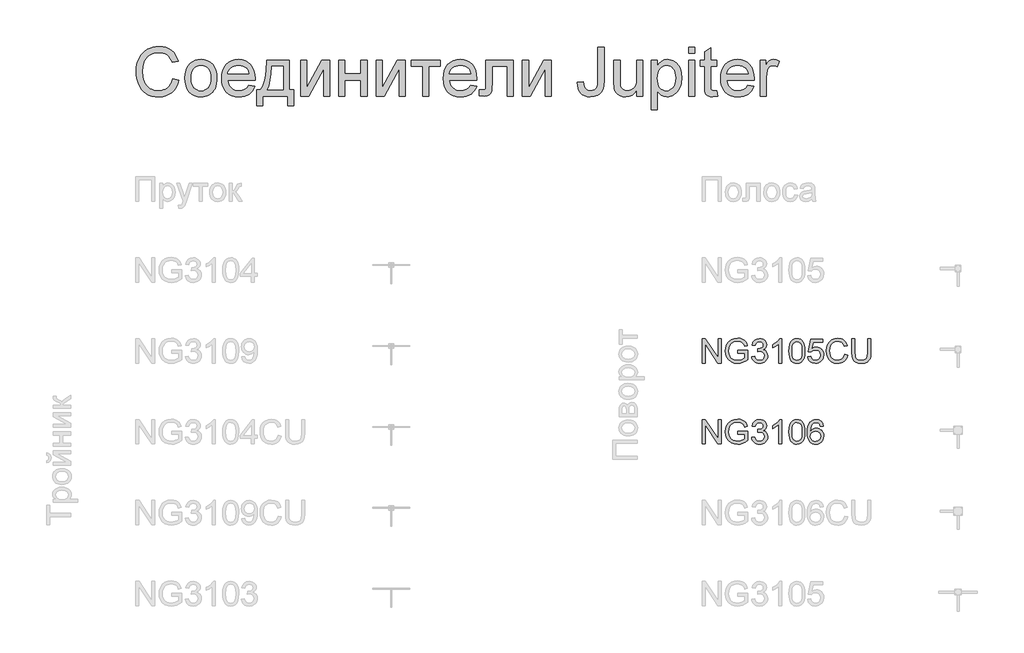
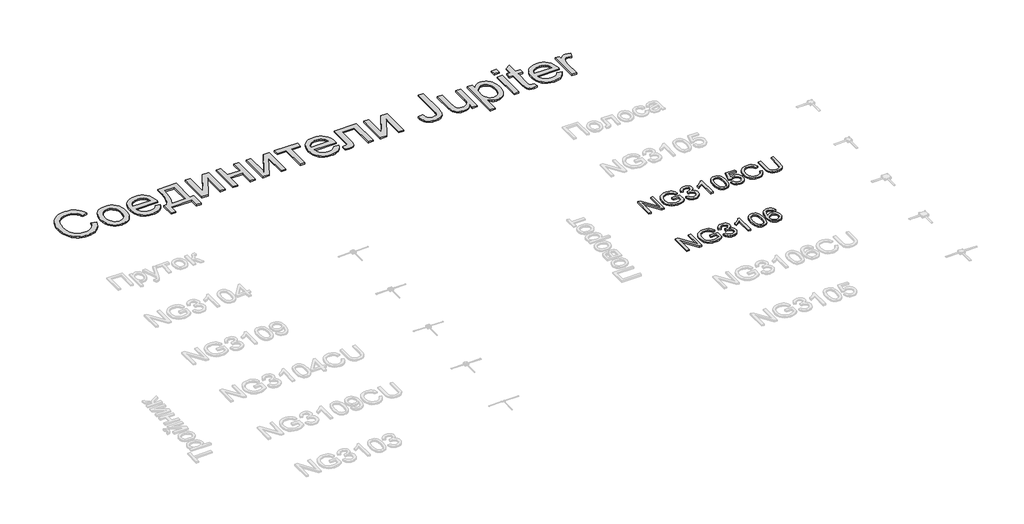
# One storey, part 123 of 124: 3 proxies.
"""IFC4 building model written with IfcOpenShell, lengths in millimetres."""

from ifc_helpers import new_model, si_unit, origin, origin_with_axes, place, context, project, spatial, polyline, outline, extrude, element, save

model = new_model("IFC4")

# Units and contexts
model_context = context("Model", 3, world=origin())
ifc_project = project(units=[si_unit("LENGTHUNIT", "METRE", prefix="MILLI")], contexts=[model_context])

# Site, building, storey
site = spatial("IfcSite", under=ifc_project)
building = spatial("IfcBuilding", under=site)
storey = spatial("IfcBuildingStorey", under=building, Name="Этаж 01", Elevation=0.0)

# Proxies
placement = place(None, origin())
element("IfcBuildingElementProxy", 1, Name="600 мм Arial", ObjectType="600 мм Arial", at=placement, inside=storey, context=model_context, shape_type="SweptSolid", body=[
    extrude(outline(polyline([(50156.5843529, -3005.2596293), (50231.9265855, -3024.6837986), (50217.0181677, -3071.5381692), (50197.161737, -3112.4788368), (50172.3572934, -3147.5058012), (50142.6048371, -3176.6190626), (50108.5757525, -3199.5059212), (50070.9414244, -3215.8536774), (50029.7018528, -3225.6623311), (49984.8570376, -3228.9318823), (49938.9131749, -3226.4578759), (49897.4666696, -3219.0358567), (49860.5175217, -3206.6658246), (49828.0657312, -3189.3477797), (49799.6652412, -3167.3392393), (49774.8699947, -3140.8977209), (49753.6799918, -3110.0232244), (49736.0952324, -3074.71575), (49722.285862, -3036.5020077), (49712.422026, -2996.908708), (49706.5037244, -2955.9358508), (49704.5309572, -2913.5834361), (49706.7612418, -2868.1408126), (49713.4520956, -2825.6964274), (49724.6035186, -2786.2502805), (49740.2155108, -2749.8023718), (49759.9385842, -2716.9551082), (49783.4232511, -2688.3108963), (49810.6695114, -2663.8697363), (49841.677365, -2643.631628), (49875.3937499, -2627.7621184), (49910.7656037, -2616.4267545), (49947.7929265, -2609.6255361), (49986.4757183, -2607.3584633), (50029.5684955, -2610.2923222), (50069.0836204, -2619.0938989), (50105.0210928, -2633.7631935), (50137.3809128, -2654.3002059), (50165.6296515, -2680.1623101), (50189.23388, -2710.8068803), (50208.1935983, -2746.2339165), (50222.5088064, -2786.4434185), (50147.1665738, -2804.3960599), (50135.3023795, -2774.7677637), (50121.0469522, -2749.4528839), (50104.4002919, -2728.4514205), (50085.3623986, -2711.7633735), (50063.8229078, -2699.0484521), (50039.6714548, -2689.9663653), (50012.9080397, -2684.5171132), (49983.5326624, -2682.7006959), (49949.7335041, -2684.7148498), (49918.8222194, -2690.7573116), (49890.7988084, -2700.8280812), (49865.6632711, -2714.9271587), (49843.7329057, -2732.4199475), (49825.3250103, -2752.6718514), (49810.4395851, -2775.6828702), (49799.07663, -2801.4530039), (49784.6740499, -2856.598515), (49779.8731898, -2913.4362833), (49785.5569667, -2983.0395568), (49792.6616877, -3014.3095264), (49802.6082971, -3043.2250512), (49815.5577434, -3069.2113156), (49831.6709748, -3091.693504), (49850.9479913, -3110.6716165), (49873.388793, -3126.1456529), (49897.9035295, -3138.1524015), (49923.4023503, -3146.7286505), (49949.8852554, -3151.8743999), (49977.3522449, -3153.5896497), (50010.107538, -3151.2535991), (50040.2416719, -3144.245447), (50067.7546466, -3132.5651937), (50092.6464621, -3116.212839), (50114.3285072, -3095.2619594), (50132.2121707, -3069.7861312), (50146.2974526, -3039.7853545), (50156.5843529, -3005.2596293)])), origin_with_axes(), (0.0, 0.0, 1.0), 20.0),
    extrude(outline(polyline([(50307.2688181, -2998.196295), (50311.3431112, -2940.8710831), (50323.5659905, -2891.4737282), (50343.937456, -2850.0042303), (50372.4575077, -2816.4625893), (50401.1706974, -2795.0242661), (50432.8637313, -2779.711178), (50467.5366093, -2770.5233252), (50505.1893315, -2767.4607076), (50546.7553985, -2771.1901113), (50584.3391428, -2782.3783225), (50617.9405645, -2801.0253411), (50647.5596637, -2827.1311672), (50671.7341093, -2859.812884), (50689.0015704, -2898.1875746), (50699.3620471, -2942.2552391), (50702.8155393, -2992.0158774), (50701.2888291, -3032.3449412), (50696.7086982, -3068.1306622), (50689.0751468, -3099.3730407), (50678.3881749, -3126.0720765), (50664.7811396, -3149.1336791), (50648.3873982, -3169.4637578), (50629.2069506, -3187.0623128), (50607.239797, -3201.9293439), (50583.3412629, -3213.7429545), (50558.3666739, -3222.1812477), (50532.3160302, -3227.2442237), (50505.1893315, -3228.9318823), (50463.0162593, -3225.2162742), (50425.0830271, -3214.0694497), (50391.3896349, -3195.491409), (50361.9360826, -3169.4821519), (50338.0191544, -3136.4831369), (50320.9356343, -3096.9358225), (50310.6855222, -3050.8402085), (50307.2688181, -2998.196295)]), holes=[polyline([(50382.6110507, -2998.0491422), (50384.7907516, -3034.5936199), (50391.329854, -3066.23607), (50402.2283581, -3092.9764925), (50417.4862639, -3114.8148874), (50436.0459105, -3131.7788459), (50456.8496374, -3143.8959592), (50479.8974444, -3151.1662271), (50505.1893315, -3153.5896497), (50530.35246, -3151.1524315), (50553.3082965, -3143.8407769), (50574.056841, -3131.6546858), (50592.5980936, -3114.5941582), (50607.8559993, -3092.5396326), (50618.7545034, -3065.3715473), (50625.2936059, -3033.0899022), (50627.4733067, -2995.6946974), (50625.2798103, -2960.309048), (50618.6993211, -2929.4943324), (50607.7318392, -2903.2505505), (50592.3773644, -2881.5777025), (50573.767134, -2864.613744), (50553.032385, -2852.4966308), (50530.1731175, -2845.2263628), (50505.1893315, -2842.8029402), (50479.8974444, -2845.2171658), (50456.8496374, -2852.4598426), (50436.0459105, -2864.5309705), (50417.4862639, -2881.4305497), (50402.2283581, -2903.2045653), (50391.329854, -2929.8990026), (50384.7907516, -2961.5138615), (50382.6110507, -2998.0491422)])]), origin_with_axes(), (0.0, 0.0, 1.0), 20.0),
    extrude(outline(polyline([(51097.4793438, -3087.6651962), (51171.3500484, -3097.0829753), (51160.0238815, -3126.6698847), (51144.733786, -3152.7435211), (51125.4797621, -3175.3038845), (51102.2618097, -3194.3509748), (51075.3190521, -3209.4801218), (51044.8906126, -3220.2866555), (51010.9764911, -3226.7705756), (50973.5766878, -3228.9318823), (50926.8280833, -3225.2024786), (50885.1746444, -3214.0142674), (50848.6163711, -3195.3672488), (50817.1532634, -3169.2614227), (50791.8521792, -3136.4233561), (50773.7799762, -3097.579616), (50762.9366544, -3052.7302022), (50759.3222138, -3001.8751149), (50762.9734426, -2949.2955808), (50773.927129, -2902.9516464), (50792.183273, -2862.8433119), (50817.7418746, -2828.9705772), (50849.1222088, -2802.0600092), (50884.8435506, -2782.838175), (50924.9058998, -2771.3050744), (50969.3092566, -2767.4607076), (51012.2824722, -2771.2958774), (51051.1446065, -2782.8013868), (51085.8956594, -2801.9772358), (51116.5356311, -2828.8234244), (51141.5470083, -2862.6225827), (51159.4122777, -2902.6573408), (51170.1314393, -2948.9276988), (51173.7044932, -3001.4336565), (51173.2630348, -3021.7407427), (50834.6644464, -3021.7407427), (50839.0284466, -3051.8058987), (50847.7058631, -3078.1370525), (50860.6966961, -3100.7342041), (50878.0009454, -3119.5973534), (50898.662118, -3134.468983), (50921.7237206, -3145.0915756), (50947.1857532, -3151.4651312), (50975.0482158, -3153.5896497), (51015.1473532, -3149.6533124), (51048.9189204, -3137.8443003), (51076.3629172, -3117.4268496), (51097.4793438, -3087.6651962)]), holes=[polyline([(50834.6644464, -2946.39851), (51098.3622606, -2946.39851), (51088.1719293, -2906.5936782), (51079.4071408, -2890.9402993), (51068.195937, -2878.1196117), (51047.6497275, -2862.6685679), (51024.2708267, -2851.6321081), (50998.0592346, -2845.0102322), (50969.0149511, -2842.8029402), (50942.5228489, -2844.5641753), (50918.2288416, -2849.8478804), (50896.1329293, -2858.6540557), (50876.2351119, -2870.982701), (50859.5378678, -2886.2635994), (50847.0436756, -2903.9265337), (50838.7525351, -2923.9715039), (50834.6644464, -2946.39851)])]), origin_with_axes(), (0.0, 0.0, 1.0), 20.0),
    extrude(outline(polyline([(51314.9711793, -2776.8784867), (51597.5045516, -2776.8784867), (51597.5045516, -3144.1718706), (51654.0112261, -3144.1718706), (51654.0112261, -3341.9452313), (51578.6689935, -3341.9452313), (51578.6689935, -3219.5141033), (51267.8822839, -3219.5141033), (51267.8822839, -3341.9452313), (51192.5400513, -3341.9452313), (51192.5400513, -3144.1718706), (51239.6289467, -3144.1718706), (51258.027645, -3115.7391909), (51273.8603664, -3082.3125132), (51287.1271108, -3043.8918373), (51297.8278783, -3000.4771633), (51305.962669, -2952.0684913), (51311.5314827, -2898.6658212), (51314.9711793, -2776.8784867)]), holes=[polyline([(51380.8956329, -2852.2207193), (51374.7152153, -2944.4671296), (51363.2372971, -3023.8744582), (51346.4618781, -3090.4427053), (51324.3889584, -3144.1718706), (51522.162319, -3144.1718706), (51522.162319, -2852.2207193), (51380.8956329, -2852.2207193)])]), origin_with_axes(), (0.0, 0.0, 1.0), 20.0),
    extrude(outline(polyline([(51738.7712378, -2776.8784867), (51814.1134704, -2776.8784867), (51814.1134704, -3114.4470054), (51999.2316903, -2776.8784867), (52096.6468427, -2776.8784867), (52096.6468427, -3219.5141033), (52021.3046101, -3219.5141033), (52021.3046101, -2884.0057237), (51837.3636125, -3219.5141033), (51738.7712378, -3219.5141033), (51738.7712378, -2776.8784867)])), origin_with_axes(), (0.0, 0.0, 1.0), 20.0),
    extrude(outline(polyline([(52209.6601916, -2776.8784867), (52285.0024242, -2776.8784867), (52285.0024242, -2946.39851), (52482.7757848, -2946.39851), (52482.7757848, -2776.8784867), (52558.1180174, -2776.8784867), (52558.1180174, -3219.5141033), (52482.7757848, -3219.5141033), (52482.7757848, -3021.7407427), (52285.0024242, -3021.7407427), (52285.0024242, -3219.5141033), (52209.6601916, -3219.5141033), (52209.6601916, -2776.8784867)])), origin_with_axes(), (0.0, 0.0, 1.0), 20.0),
    extrude(outline(polyline([(52671.1313663, -2776.8784867), (52746.4735989, -2776.8784867), (52746.4735989, -3114.4470054), (52931.5918189, -2776.8784867), (53029.0069712, -2776.8784867), (53029.0069712, -3219.5141033), (52953.6647386, -3219.5141033), (52953.6647386, -2884.0057237), (52769.723741, -3219.5141033), (52671.1313663, -3219.5141033), (52671.1313663, -2776.8784867)])), origin_with_axes(), (0.0, 0.0, 1.0), 20.0),
    extrude(outline(polyline([(53104.3492039, -2776.8784867), (53462.2248088, -2776.8784867), (53462.2248088, -2852.2207193), (53320.9581226, -2852.2207193), (53320.9581226, -3219.5141033), (53245.61589, -3219.5141033), (53245.61589, -2852.2207193), (53104.3492039, -2852.2207193), (53104.3492039, -2776.8784867)])), origin_with_axes(), (0.0, 0.0, 1.0), 20.0),
    extrude(outline(polyline([(53838.053055, -3087.6651962), (53911.9237597, -3097.0829753), (53900.5975927, -3126.6698847), (53885.3074973, -3152.7435211), (53866.0534734, -3175.3038845), (53842.835521, -3194.3509748), (53815.8927634, -3209.4801218), (53785.4643238, -3220.2866555), (53751.5502024, -3226.7705756), (53714.1503991, -3228.9318823), (53667.4017945, -3225.2024786), (53625.7483556, -3214.0142674), (53589.1900824, -3195.3672488), (53557.7269747, -3169.2614227), (53532.4258905, -3136.4233561), (53514.3536875, -3097.579616), (53503.5103657, -3052.7302022), (53499.8959251, -3001.8751149), (53503.5471539, -2949.2955808), (53514.5008403, -2902.9516464), (53532.7569843, -2862.8433119), (53558.3155859, -2828.9705772), (53589.6959201, -2802.0600092), (53625.4172618, -2782.838175), (53665.4796111, -2771.3050744), (53709.8829679, -2767.4607076), (53752.8561835, -2771.2958774), (53791.7183177, -2782.8013868), (53826.4693707, -2801.9772358), (53857.1093424, -2828.8234244), (53882.1207195, -2862.6225827), (53899.9859889, -2902.6573408), (53910.7051506, -2948.9276988), (53914.2782044, -3001.4336565), (53913.836746, -3021.7407427), (53575.2381577, -3021.7407427), (53579.6021579, -3051.8058987), (53588.2795744, -3078.1370525), (53601.2704074, -3100.7342041), (53618.5746567, -3119.5973534), (53639.2358293, -3134.468983), (53662.2974318, -3145.0915756), (53687.7594644, -3151.4651312), (53715.621927, -3153.5896497), (53755.7210645, -3149.6533124), (53789.4926317, -3137.8443003), (53816.9366285, -3117.4268496), (53838.053055, -3087.6651962)]), holes=[polyline([(53575.2381577, -2946.39851), (53838.9359718, -2946.39851), (53828.7456406, -2906.5936782), (53819.980852, -2890.9402993), (53808.7696482, -2878.1196117), (53788.2234388, -2862.6685679), (53764.844538, -2851.6321081), (53738.6329458, -2845.0102322), (53709.5886623, -2842.8029402), (53683.0965601, -2844.5641753), (53658.8025529, -2849.8478804), (53636.7066406, -2858.6540557), (53616.8088231, -2870.982701), (53600.1115791, -2886.2635994), (53587.6173868, -2903.9265337), (53579.3262464, -2923.9715039), (53575.2381577, -2946.39851)])]), origin_with_axes(), (0.0, 0.0, 1.0), 20.0),
    extrude(outline(polyline([(54027.2915534, -2776.8784867), (54366.3316001, -2776.8784867), (54366.3316001, -3219.0726449), (54290.9893675, -3219.0726449), (54290.9893675, -2852.2207193), (54102.633786, -2852.2207193), (54102.633786, -3063.3849845), (54101.3645931, -3124.6741249), (54097.5570144, -3160.8001368), (54088.0472649, -3182.8546624), (54069.6715592, -3201.9293439), (54041.786104, -3215.1179134), (54003.7471057, -3219.5141033), (53942.5315417, -3215.6881305), (53942.5315417, -3144.1718706), (53976.2295324, -3144.1718706), (53996.6653773, -3143.0130424), (54010.2954052, -3139.5365575), (54018.8118734, -3133.540081), (54023.907039, -3124.8212777), (54027.2915534, -3059.1175534), (54027.2915534, -2776.8784867)])), origin_with_axes(), (0.0, 0.0, 1.0), 20.0),
    extrude(outline(polyline([(54479.344949, -2776.8784867), (54554.6871816, -2776.8784867), (54554.6871816, -3114.4470054), (54739.8054016, -2776.8784867), (54837.2205539, -2776.8784867), (54837.2205539, -3219.5141033), (54761.8783213, -3219.5141033), (54761.8783213, -2884.0057237), (54577.9373237, -3219.5141033), (54479.344949, -3219.5141033), (54479.344949, -2776.8784867)])), origin_with_axes(), (0.0, 0.0, 1.0), 20.0),
    extrude(outline(polyline([(55157.4250425, -3050.2883855), (55232.7672752, -3040.5763008), (55235.4252226, -3070.5310923), (55240.6031617, -3095.3539299), (55248.3010924, -3115.0448137), (55258.5190148, -3129.6037436), (55271.1005791, -3140.0975776), (55285.8894353, -3147.5931732), (55302.8855834, -3152.0905306), (55322.0890236, -3153.5896497), (55349.9192965, -3150.1867413), (55373.6660793, -3139.9780159), (55391.9866027, -3123.9015727), (55403.5380973, -3102.8955108), (55409.6633325, -3072.4900639), (55411.7050776, -3028.2154658), (55411.7050776, -2616.7762424), (55487.0473102, -2616.7762424), (55487.0473102, -3026.8910906), (55482.5039676, -3093.9743724), (55476.8247893, -3121.101071), (55468.8739397, -3143.9511415), (55458.4536821, -3163.4350916), (55445.3662802, -3180.4634295), (55429.6117337, -3195.036155), (55411.1900428, -3207.1532682), (55368.2766081, -3223.4872288), (55318.5573564, -3228.9318823), (55281.4288661, -3226.1221836), (55248.9172947, -3217.6930874), (55221.0226425, -3203.6445937), (55197.7449092, -3183.9767025), (55179.4979623, -3158.7629903), (55166.6956688, -3128.0770334), (55159.3380289, -3091.9188318), (55157.4250425, -3050.2883855)])), origin_with_axes(), (0.0, 0.0, 1.0), 20.0),
    extrude(outline(polyline([(55892.0118105, -3219.5141033), (55892.0118105, -3143.4361067), (55864.7517547, -3180.8405085), (55833.0035385, -3207.5579384), (55796.767162, -3223.5883964), (55756.0426251, -3228.9318823), (55719.3463961, -3225.179486), (55685.1885528, -3213.9222969), (55656.5305454, -3196.9997252), (55636.3338239, -3176.2511806), (55622.7405841, -3151.051264), (55613.8930222, -3120.7745758), (55609.4784382, -3050.7298439), (55609.4784382, -2776.8784867), (55684.8206708, -2776.8784867), (55684.8206708, -3015.2660195), (55685.961105, -3062.9435261), (55689.3824076, -3092.0797801), (55700.3636851, -3117.7027611), (55719.1808492, -3137.1821127), (55744.5831009, -3149.4877655), (55775.3196416, -3153.5896497), (55807.8220159, -3149.395795), (55838.2274628, -3136.8142307), (55863.2986208, -3117.0037853), (55879.7981283, -3091.1232869), (55888.9583899, -3055.6778567), (55892.0118105, -3007.1726156), (55892.0118105, -2776.8784867), (55967.3540431, -2776.8784867), (55967.3540431, -3219.5141033), (55892.0118105, -3219.5141033)])), origin_with_axes(), (0.0, 0.0, 1.0), 20.0),
    extrude(outline(polyline([(56070.949613, -3389.0341266), (56070.949613, -2776.8784867), (56146.2918456, -2776.8784867), (56146.2918456, -2850.7491913), (56170.8663629, -2814.3104797), (56198.3839361, -2788.2828285), (56230.4632461, -2772.6662378), (56268.7229736, -2767.4607076), (56294.9989451, -2769.2817235), (56319.6746299, -2774.7447711), (56342.7500281, -2783.8498505), (56364.2251395, -2796.5969616), (56383.6309148, -2812.6550107), (56400.4983042, -2831.6929039), (56414.827308, -2853.7106414), (56426.6179259, -2878.7082229), (56442.4000635, -2934.221616), (56447.660776, -2994.8117806), (56441.7194818, -3059.2463121), (56434.292864, -3088.9113964), (56423.8955991, -3116.8750266), (56410.6702414, -3142.4060371), (56394.7593451, -3164.7732624), (56376.1629103, -3183.9767025), (56354.8809368, -3200.0163575), (56331.95729, -3212.6668996), (56308.4358349, -3221.7030011), (56284.3165716, -3227.124662), (56259.5995001, -3228.9318823), (56224.9634102, -3224.0942341), (56194.0429285, -3209.5812894), (56167.573819, -3187.6739166), (56146.2918456, -3160.652984), (56146.2918456, -3389.0341266), (56070.949613, -3389.0341266)]), holes=[polyline([(56146.2918456, -3001.7279621), (56148.3289921, -3038.037915), (56154.4404318, -3069.2710964), (56164.6261645, -3095.4275063), (56178.8861903, -3116.5071446), (56196.0524839, -3132.7307406), (56214.95702, -3144.3190234), (56235.5997984, -3151.2719932), (56257.9808193, -3153.5896497), (56280.6837369, -3151.1892197), (56301.7035944, -3143.9879297), (56321.0403918, -3131.9857796), (56338.6941291, -3115.1827694), (56353.4048103, -3093.339776), (56363.9124398, -3066.2176759), (56370.2170175, -3033.8164691), (56372.3185434, -2996.1361558), (56370.2676013, -2960.1389026), (56364.1147749, -2928.9609035), (56353.8600643, -2902.6021585), (56339.5034694, -2881.0626677), (56322.2957891, -2864.3240369), (56303.4878221, -2852.3678721), (56283.0795684, -2845.1941732), (56261.0710281, -2842.8029402), (56239.1314656, -2845.3459245), (56218.4886871, -2852.9748774), (56199.1426927, -2865.6897988), (56181.0934823, -2883.4906889), (56165.8677662, -2906.1384242), (56154.9922548, -2933.3938815), (56148.4669479, -2965.2570608), (56146.2918456, -3001.7279621)])]), origin_with_axes(), (0.0, 0.0, 1.0), 20.0),
    extrude(outline(polyline([(56532.4207877, -2692.118475), (56532.4207877, -2616.7762424), (56607.7630203, -2616.7762424), (56607.7630203, -2692.118475), (56532.4207877, -2692.118475)])), origin_with_axes(), (0.0, 0.0, 1.0), 20.0),
    extrude(outline(polyline([(56532.4207877, -3219.5141033), (56532.4207877, -2776.8784867), (56607.7630203, -2776.8784867), (56607.7630203, -3219.5141033), (56532.4207877, -3219.5141033)])), origin_with_axes(), (0.0, 0.0, 1.0), 20.0),
    extrude(outline(polyline([(56880.8786135, -3156.6798585), (56890.2963926, -3221.7213952), (56833.936871, -3228.9318823), (56797.7740708, -3225.8048854), (56770.8083206, -3216.4238945), (56751.7520332, -3201.9661321), (56739.3176218, -3183.6088205), (56732.4750167, -3152.0813335), (56730.1941483, -3098.1130449), (56730.1941483, -2852.2207193), (56673.6874739, -2852.2207193), (56673.6874739, -2776.8784867), (56730.1941483, -2776.8784867), (56730.1941483, -2669.3097913), (56805.5363809, -2625.0167991), (56805.5363809, -2776.8784867), (56880.8786135, -2776.8784867), (56880.8786135, -2852.2207193), (56805.5363809, -2852.2207193), (56805.5363809, -3095.9057529), (56809.5095065, -3134.7540916), (56822.3853763, -3148.5128782), (56833.2562893, -3152.3204568), (56848.0635396, -3153.5896497), (56880.8786135, -3156.6798585)])), origin_with_axes(), (0.0, 0.0, 1.0), 20.0),
    extrude(outline(polyline([(57266.1246389, -3087.6651962), (57339.9953435, -3097.0829753), (57328.6691766, -3126.6698847), (57313.3790812, -3152.7435211), (57294.1250573, -3175.3038845), (57270.9071048, -3194.3509748), (57243.9643472, -3209.4801218), (57213.5359077, -3220.2866555), (57179.6217863, -3226.7705756), (57142.2219829, -3228.9318823), (57095.4733784, -3225.2024786), (57053.8199395, -3214.0142674), (57017.2616662, -3195.3672488), (56985.7985586, -3169.2614227), (56960.4974744, -3136.4233561), (56942.4252713, -3097.579616), (56931.5819495, -3052.7302022), (56927.9675089, -3001.8751149), (56931.6187377, -2949.2955808), (56942.5724241, -2902.9516464), (56960.8285681, -2862.8433119), (56986.3871698, -2828.9705772), (57017.767504, -2802.0600092), (57053.4888457, -2782.838175), (57093.551195, -2771.3050744), (57137.9545518, -2767.4607076), (57180.9277673, -2771.2958774), (57219.7899016, -2782.8013868), (57254.5409546, -2801.9772358), (57285.1809262, -2828.8234244), (57310.1923034, -2862.6225827), (57328.0575728, -2902.6573408), (57338.7767344, -2948.9276988), (57342.3497883, -3001.4336565), (57341.9083299, -3021.7407427), (57003.3097415, -3021.7407427), (57007.6737417, -3051.8058987), (57016.3511583, -3078.1370525), (57029.3419912, -3100.7342041), (57046.6462406, -3119.5973534), (57067.3074131, -3134.468983), (57090.3690157, -3145.0915756), (57115.8310483, -3151.4651312), (57143.6935109, -3153.5896497), (57183.7926484, -3149.6533124), (57217.5642155, -3137.8443003), (57245.0082124, -3117.4268496), (57266.1246389, -3087.6651962)]), holes=[polyline([(57003.3097415, -2946.39851), (57267.0075557, -2946.39851), (57256.8172244, -2906.5936782), (57248.0524359, -2890.9402993), (57236.8412321, -2878.1196117), (57216.2950226, -2862.6685679), (57192.9161219, -2851.6321081), (57166.7045297, -2845.0102322), (57137.6602462, -2842.8029402), (57111.168144, -2844.5641753), (57086.8741367, -2849.8478804), (57064.7782244, -2858.6540557), (57044.880407, -2870.982701), (57028.1831629, -2886.2635994), (57015.6889707, -2903.9265337), (57007.3978302, -2923.9715039), (57003.3097415, -2946.39851)])]), origin_with_axes(), (0.0, 0.0, 1.0), 20.0),
    extrude(outline(polyline([(57417.6920209, -3219.5141033), (57417.6920209, -2776.8784867), (57483.6164744, -2776.8784867), (57483.6164744, -2842.3614818), (57507.9702625, -2804.3960599), (57530.4110642, -2782.0288346), (57552.9254423, -2771.1027393), (57577.4999596, -2767.4607076), (57615.0239231, -2773.2732431), (57653.1364978, -2790.7108497), (57627.9733693, -2858.253984), (57601.4858657, -2846.6657011), (57574.998362, -2842.8029402), (57552.502378, -2846.5185484), (57532.397627, -2857.6653728), (57516.1556369, -2875.397285), (57505.2479358, -2898.8681563), (57496.0876741, -2940.9538565), (57493.0342535, -2986.8655295), (57493.0342535, -3219.5141033), (57417.6920209, -3219.5141033)])), origin_with_axes(), (0.0, 0.0, 1.0), 20.0),
])
element("IfcBuildingElementProxy", 2, Name="300", ObjectType="300", at=placement, inside=storey, context=model_context, shape_type="SweptSolid", body=[
    extrude(outline(polyline([(56699.8220677, -6519.5141033), (56699.8220677, -6218.1451728), (56740.1419344, -6218.1451728), (56897.5954283, -6456.9005877), (56897.5954283, -6218.1451728), (56935.2665446, -6218.1451728), (56935.2665446, -6519.5141033), (56894.9466779, -6519.5141033), (56737.493184, -6280.685112), (56737.493184, -6519.5141033), (56699.8220677, -6519.5141033)])), origin_with_axes(), (0.0, 0.0, 1.0), 20.0),
    extrude(outline(polyline([(57142.4576843, -6401.7918648), (57142.4576843, -6364.1207485), (57264.8888123, -6364.1207485), (57264.8888123, -6476.7662154), (57235.1363559, -6497.4595776), (57204.4458005, -6512.3036162), (57172.8907223, -6521.2431486), (57140.5446979, -6524.2229928), (57098.2842537, -6519.4865121), (57060.0889056, -6505.27707), (57028.3590835, -6482.0913073), (57005.4952175, -6450.4258646), (56991.6720515, -6412.4420486), (56987.0643295, -6370.301166), (56991.6536574, -6327.8567808), (57005.4216411, -6288.3738457), (57027.7980634, -6255.2552691), (57058.2127074, -6231.9039594), (57095.2584243, -6218.0532023), (57137.5280656, -6213.4362833), (57168.5589118, -6216.1126248), (57196.4627612, -6224.1416493), (57219.9612236, -6236.9439428), (57237.7759092, -6253.9400909), (57250.9552817, -6275.9486313), (57260.5478047, -6303.7881013), (57225.8197444, -6313.5737624), (57218.0666313, -6293.7173317), (57208.6396552, -6278.7353374), (57196.1684556, -6267.4413602), (57179.282672, -6258.6489805), (57159.1503298, -6252.9927948), (57136.9394544, -6251.1073996), (57110.9393944, -6253.1399476), (57088.7101248, -6259.2375917), (57070.3344191, -6268.6369766), (57055.8950508, -6280.5747474), (57036.5076697, -6309.6006368), (57027.6785018, -6338.037915), (57024.7354458, -6368.7560616), (57028.27631, -6404.780906), (57038.8989026, -6434.4229978), (57056.2813269, -6457.4708048), (57080.1016861, -6473.7127949), (57107.9779443, -6483.3421061), (57137.5280656, -6486.5518765), (57163.6200961, -6484.1330524), (57189.0683331, -6476.87658), (57211.1688439, -6466.8793868), (57227.217696, -6456.2384001), (57227.217696, -6401.7918648), (57142.4576843, -6401.7918648)])), origin_with_axes(), (0.0, 0.0, 1.0), 20.0),
    extrude(outline(polyline([(57311.9777077, -6439.4629811), (57349.648824, -6434.7540916), (57358.0825187, -6458.427298), (57370.4341567, -6474.4117707), (57387.3107432, -6483.51685), (57409.3192836, -6486.5518765), (57435.1445997, -6482.3764158), (57455.0838038, -6469.8500339), (57467.8309149, -6451.1616286), (57472.079952, -6428.5000977), (57467.8677031, -6406.988198), (57455.2309566, -6389.5413944), (57436.1010928, -6377.9807027), (57412.4094924, -6374.1271388), (57385.9955651, -6378.2474171), (57390.1894198, -6340.5763008), (57396.2226846, -6341.0177592), (57418.792245, -6338.3138265), (57438.9705724, -6330.2020285), (57453.2076056, -6316.4800301), (57457.9532834, -6296.9454962), (57454.5135867, -6280.6759149), (57444.1944967, -6267.4781484), (57428.4491473, -6258.7317539), (57408.7306724, -6255.8162891), (57388.9754093, -6258.7593451), (57372.8253897, -6267.588513), (57361.0347717, -6282.3037928), (57354.3577135, -6302.9051845), (57316.6865972, -6298.196295), (57327.7782394, -6264.3695455), (57347.5151084, -6239.1144465), (57374.5176468, -6223.3874912), (57407.4062972, -6218.1451728), (57431.0887007, -6220.7295438), (57452.8397236, -6228.4826569), (57471.1786411, -6240.7147332), (57484.624728, -6256.7359941), (57492.8744817, -6275.1944732), (57495.6243997, -6294.7382042), (57493.0124375, -6312.948363), (57485.176551, -6329.4662646), (57472.2271048, -6343.5377509), (57454.2744634, -6354.4086638), (57477.8556993, -6363.9368075), (57495.3300941, -6380.1604035), (57506.1458247, -6402.196535), (57509.7510683, -6429.1622852), (57507.9484465, -6448.2737549), (57502.5405812, -6465.8769084), (57493.5274723, -6481.9717457), (57480.9091199, -6496.5582668), (57465.536251, -6508.6615844), (57448.2595928, -6517.3068113), (57429.0791453, -6522.4939474), (57407.9949084, -6524.2229928), (57388.9386211, -6522.7468663), (57371.5745909, -6518.3184868), (57355.9028179, -6510.9378542), (57341.9233021, -6500.6049687), (57330.201662, -6487.9268354), (57321.3035162, -6473.5104598), (57315.2288648, -6457.3558417), (57311.9777077, -6439.4629811)])), origin_with_axes(), (0.0, 0.0, 1.0), 20.0),
    extrude(outline(polyline([(57683.9799812, -6519.5141033), (57646.3088649, -6519.5141033), (57646.3088649, -6284.6582375), (57610.6243114, -6310.0788834), (57570.9666323, -6329.0983826), (57570.9666323, -6293.4874054), (57600.5535417, -6277.3925681), (57626.1857197, -6258.2443103), (57646.3916383, -6237.8820419), (57659.6997695, -6218.1451728), (57683.9799812, -6218.1451728), (57683.9799812, -6519.5141033)])), origin_with_axes(), (0.0, 0.0, 1.0), 20.0),
    extrude(outline(polyline([(57773.4488824, -6371.2576592), (57776.2171944, -6323.0191326), (57784.5221305, -6284.5478729), (57798.2809171, -6255.2552691), (57817.4107808, -6234.5527098), (57842.0496775, -6222.2470571), (57872.3355627, -6218.1451728), (57895.5489166, -6220.573194), (57916.3342493, -6227.8572575), (57933.7166736, -6239.7122548), (57946.7213021, -6255.8530773), (57956.5437514, -6276.1417694), (57964.3796379, -6300.4403751), (57969.5115917, -6331.2964775), (57971.222243, -6371.2576592), (57968.4815222, -6419.2202743), (57960.2593596, -6457.5995635), (57946.5833464, -6486.9197585), (57927.4810738, -6507.7050912), (57902.7869949, -6520.0935174), (57872.3355627, -6524.2229928), (57851.5870182, -6522.4295681), (57833.1929184, -6517.0492939), (57817.1532634, -6508.0821703), (57803.4680532, -6495.5281972), (57790.334666, -6472.8344766), (57780.9536751, -6444.5581467), (57775.3250806, -6410.6992076), (57773.4488824, -6371.2576592)]), holes=[polyline([(57811.1199987, -6371.1840828), (57815.5345827, -6430.4406752), (57821.0528126, -6450.7086739), (57828.7783345, -6464.7364742), (57848.4968094, -6481.0980259), (57872.3355627, -6486.5518765), (57896.174316, -6481.0796318), (57915.892791, -6464.6628978), (57923.6183128, -6450.6121048), (57929.1365428, -6430.3487047), (57933.5511267, -6371.1840828), (57929.2836956, -6313.2610627), (57923.9494066, -6293.0597426), (57916.4814021, -6278.6985492), (57896.7997154, -6261.5368541), (57871.8941043, -6255.8162891), (57848.3128684, -6260.8562725), (57829.3669457, -6275.9762225), (57821.3839064, -6291.6112072), (57815.6817355, -6312.6908456), (57811.1199987, -6371.1840828)])]), origin_with_axes(), (0.0, 0.0, 1.0), 20.0),
    extrude(outline(polyline([(58004.1844698, -6439.4629811), (58041.8555861, -6434.7540916), (58048.7717676, -6457.3696372), (58060.838297, -6473.5656421), (58077.9999921, -6483.3053179), (58100.2016705, -6486.5518765), (58127.204209, -6482.036125), (58147.4377187, -6468.4888705), (58160.0744652, -6447.4736116), (58164.2867141, -6420.5538466), (58160.3411797, -6395.2067771), (58148.5045765, -6375.8193959), (58128.684934, -6363.5137432), (58100.7902817, -6359.411859), (58082.5157436, -6361.0489338), (58067.7176904, -6365.9601585), (58046.5644756, -6382.9563067), (58008.8933593, -6378.2474171), (58041.8555861, -6222.8540624), (58187.8311618, -6222.8540624), (58187.8311618, -6260.5251787), (58072.3162153, -6260.5251787), (58056.2029839, -6343.5193568), (58083.1135519, -6327.1853962), (58111.3117068, -6321.7407427), (58129.657522, -6323.4284013), (58146.5088167, -6328.4913773), (58161.8655907, -6336.9296705), (58175.7278441, -6348.7432811), (58187.2034631, -6363.2102406), (58195.4003338, -6379.6085805), (58200.3184563, -6397.9383009), (58201.9578304, -6418.1994018), (58196.0533244, -6455.8705181), (58188.6726918, -6472.6643312), (58178.3398063, -6488.0969809), (58162.6864274, -6503.9021111), (58144.4210864, -6515.1914898), (58123.5437831, -6521.9651171), (58100.0545177, -6524.2229928), (58063.0547861, -6518.4196543), (58047.3761153, -6511.1654812), (58033.5782412, -6501.0096389), (58022.0980237, -6488.4579651), (58013.3723226, -6474.0162975), (58004.1844698, -6439.4629811)])), origin_with_axes(), (0.0, 0.0, 1.0), 20.0),
    extrude(outline(polyline([(58460.946755, -6412.3868663), (58498.6178713, -6422.0989509), (58491.1636624, -6445.5261362), (58481.235447, -6465.99647), (58468.8332253, -6483.5099522), (58453.9569971, -6498.0665829), (58436.9424548, -6509.5100123), (58418.1252908, -6517.6838903), (58397.5055049, -6522.5882172), (58375.0830973, -6524.2229928), (58331.3879134, -6519.27498), (58296.6874442, -6504.4309415), (58270.0895759, -6480.2059121), (58250.7021948, -6447.1149266), (58238.8655916, -6408.2114056), (58234.9200572, -6366.5487697), (58239.3806264, -6322.6052653), (58252.7623339, -6284.6582375), (58274.3662041, -6253.9124998), (58303.4932611, -6231.5728656), (58338.0373804, -6217.9704289), (58375.8924377, -6213.4362833), (58417.1963887, -6219.3040011), (58435.1651249, -6226.6386484), (58451.3450349, -6236.9071546), (58465.4694043, -6249.8382067), (58477.2715185, -6265.1604918), (58493.9089818, -6302.9787609), (58456.2378655, -6311.9550816), (58443.1780546, -6284.4834936), (58425.3357779, -6265.6387384), (58402.490306, -6254.7402343), (58374.4209097, -6251.1073996), (58342.0656883, -6255.1357074), (58315.4862141, -6267.220631), (58295.3170837, -6286.0929773), (58282.1928935, -6310.4835536), (58274.9916035, -6338.0563091), (58272.5911735, -6366.4751933), (58275.4330619, -6401.27683), (58283.9587271, -6431.3695772), (58298.4900659, -6455.6038036), (58319.3489751, -6472.8298781), (58344.3557537, -6483.1213769), (58371.330701, -6486.5518765), (58402.7754145, -6481.8797752), (58428.9778096, -6467.8634711), (58448.7606639, -6444.6501172), (58460.946755, -6412.3868663)])), origin_with_axes(), (0.0, 0.0, 1.0), 20.0),
    extrude(outline(polyline([(58748.1890168, -6218.1451728), (58785.8601331, -6218.1451728), (58785.8601331, -6392.0062037), (58783.3033533, -6432.7215435), (58775.6330137, -6464.0742866), (58761.30401, -6488.2625278), (58738.7712378, -6507.484362), (58707.9795148, -6520.0383351), (58668.8736587, -6524.2229928), (58630.6231282, -6520.580961), (58600.0429374, -6509.6548658), (58577.1238891, -6491.8217861), (58561.8567863, -6467.4588009), (58553.2759387, -6434.7816827), (58550.4156562, -6392.0062037), (58550.4156562, -6218.1451728), (58588.0867725, -6218.1451728), (58588.0867725, -6390.6818285), (58589.9445766, -6424.5361692), (58595.5179888, -6448.108208), (58605.6163496, -6464.4329715), (58621.0489993, -6476.5454862), (58641.1721444, -6484.0502789), (58665.3419915, -6486.5518765), (58703.6569013, -6481.6038637), (58717.9997006, -6475.4188476), (58729.1327295, -6466.7598252), (58737.4698552, -6454.5829311), (58743.424945, -6437.8443003), (58748.1890168, -6390.6818285), (58748.1890168, -6218.1451728)])), origin_with_axes(), (0.0, 0.0, 1.0), 20.0),
])
element("IfcBuildingElementProxy", 3, Name="300", ObjectType="300", at=placement, inside=storey, context=model_context, shape_type="SweptSolid", body=[
    extrude(outline(polyline([(56699.8220677, -7519.5141033), (56699.8220677, -7218.1451728), (56740.1419344, -7218.1451728), (56897.5954283, -7456.9005877), (56897.5954283, -7218.1451728), (56935.2665446, -7218.1451728), (56935.2665446, -7519.5141033), (56894.9466779, -7519.5141033), (56737.493184, -7280.685112), (56737.493184, -7519.5141033), (56699.8220677, -7519.5141033)])), origin_with_axes(), (0.0, 0.0, 1.0), 20.0),
    extrude(outline(polyline([(57142.4576843, -7401.7918648), (57142.4576843, -7364.1207485), (57264.8888123, -7364.1207485), (57264.8888123, -7476.7662154), (57235.1363559, -7497.4595776), (57204.4458005, -7512.3036162), (57172.8907223, -7521.2431486), (57140.5446979, -7524.2229928), (57098.2842537, -7519.4865121), (57060.0889056, -7505.27707), (57028.3590835, -7482.0913073), (57005.4952175, -7450.4258646), (56991.6720515, -7412.4420486), (56987.0643295, -7370.301166), (56991.6536574, -7327.8567808), (57005.4216411, -7288.3738457), (57027.7980634, -7255.2552691), (57058.2127074, -7231.9039594), (57095.2584243, -7218.0532023), (57137.5280656, -7213.4362833), (57168.5589118, -7216.1126248), (57196.4627612, -7224.1416493), (57219.9612236, -7236.9439428), (57237.7759092, -7253.9400909), (57250.9552817, -7275.9486313), (57260.5478047, -7303.7881013), (57225.8197444, -7313.5737624), (57218.0666313, -7293.7173317), (57208.6396552, -7278.7353374), (57196.1684556, -7267.4413602), (57179.282672, -7258.6489805), (57159.1503298, -7252.9927948), (57136.9394544, -7251.1073996), (57110.9393944, -7253.1399476), (57088.7101248, -7259.2375917), (57070.3344191, -7268.6369766), (57055.8950508, -7280.5747474), (57036.5076697, -7309.6006368), (57027.6785018, -7338.037915), (57024.7354458, -7368.7560616), (57028.27631, -7404.780906), (57038.8989026, -7434.4229978), (57056.2813269, -7457.4708048), (57080.1016861, -7473.7127949), (57107.9779443, -7483.3421061), (57137.5280656, -7486.5518765), (57163.6200961, -7484.1330524), (57189.0683331, -7476.87658), (57211.1688439, -7466.8793868), (57227.217696, -7456.2384001), (57227.217696, -7401.7918648), (57142.4576843, -7401.7918648)])), origin_with_axes(), (0.0, 0.0, 1.0), 20.0),
    extrude(outline(polyline([(57311.9777077, -7439.4629811), (57349.648824, -7434.7540916), (57358.0825187, -7458.427298), (57370.4341567, -7474.4117707), (57387.3107432, -7483.51685), (57409.3192836, -7486.5518765), (57435.1445997, -7482.3764158), (57455.0838038, -7469.8500339), (57467.8309149, -7451.1616286), (57472.079952, -7428.5000977), (57467.8677031, -7406.988198), (57455.2309566, -7389.5413944), (57436.1010928, -7377.9807027), (57412.4094924, -7374.1271388), (57385.9955651, -7378.2474171), (57390.1894198, -7340.5763008), (57396.2226846, -7341.0177592), (57418.792245, -7338.3138265), (57438.9705724, -7330.2020285), (57453.2076056, -7316.4800301), (57457.9532834, -7296.9454962), (57454.5135867, -7280.6759149), (57444.1944967, -7267.4781484), (57428.4491473, -7258.7317539), (57408.7306724, -7255.8162891), (57388.9754093, -7258.7593451), (57372.8253897, -7267.588513), (57361.0347717, -7282.3037928), (57354.3577135, -7302.9051845), (57316.6865972, -7298.196295), (57327.7782394, -7264.3695455), (57347.5151084, -7239.1144465), (57374.5176468, -7223.3874912), (57407.4062972, -7218.1451728), (57431.0887007, -7220.7295438), (57452.8397236, -7228.4826569), (57471.1786411, -7240.7147332), (57484.624728, -7256.7359941), (57492.8744817, -7275.1944732), (57495.6243997, -7294.7382042), (57493.0124375, -7312.948363), (57485.176551, -7329.4662646), (57472.2271048, -7343.5377509), (57454.2744634, -7354.4086638), (57477.8556993, -7363.9368075), (57495.3300941, -7380.1604035), (57506.1458247, -7402.196535), (57509.7510683, -7429.1622852), (57507.9484465, -7448.2737549), (57502.5405812, -7465.8769084), (57493.5274723, -7481.9717457), (57480.9091199, -7496.5582668), (57465.536251, -7508.6615844), (57448.2595928, -7517.3068113), (57429.0791453, -7522.4939474), (57407.9949084, -7524.2229928), (57388.9386211, -7522.7468663), (57371.5745909, -7518.3184868), (57355.9028179, -7510.9378542), (57341.9233021, -7500.6049687), (57330.201662, -7487.9268354), (57321.3035162, -7473.5104598), (57315.2288648, -7457.3558417), (57311.9777077, -7439.4629811)])), origin_with_axes(), (0.0, 0.0, 1.0), 20.0),
    extrude(outline(polyline([(57683.9799812, -7519.5141033), (57646.3088649, -7519.5141033), (57646.3088649, -7284.6582375), (57610.6243114, -7310.0788834), (57570.9666323, -7329.0983826), (57570.9666323, -7293.4874054), (57600.5535417, -7277.3925681), (57626.1857197, -7258.2443103), (57646.3916383, -7237.8820419), (57659.6997695, -7218.1451728), (57683.9799812, -7218.1451728), (57683.9799812, -7519.5141033)])), origin_with_axes(), (0.0, 0.0, 1.0), 20.0),
    extrude(outline(polyline([(57773.4488824, -7371.2576592), (57776.2171944, -7323.0191326), (57784.5221305, -7284.5478729), (57798.2809171, -7255.2552691), (57817.4107808, -7234.5527098), (57842.0496775, -7222.2470571), (57872.3355627, -7218.1451728), (57895.5489166, -7220.573194), (57916.3342493, -7227.8572575), (57933.7166736, -7239.7122548), (57946.7213021, -7255.8530773), (57956.5437514, -7276.1417694), (57964.3796379, -7300.4403751), (57969.5115917, -7331.2964775), (57971.222243, -7371.2576592), (57968.4815222, -7419.2202743), (57960.2593596, -7457.5995635), (57946.5833464, -7486.9197585), (57927.4810738, -7507.7050912), (57902.7869949, -7520.0935174), (57872.3355627, -7524.2229928), (57851.5870182, -7522.4295681), (57833.1929184, -7517.0492939), (57817.1532634, -7508.0821703), (57803.4680532, -7495.5281972), (57790.334666, -7472.8344766), (57780.9536751, -7444.5581467), (57775.3250806, -7410.6992076), (57773.4488824, -7371.2576592)]), holes=[polyline([(57811.1199987, -7371.1840828), (57815.5345827, -7430.4406752), (57821.0528126, -7450.7086739), (57828.7783345, -7464.7364742), (57848.4968094, -7481.0980259), (57872.3355627, -7486.5518765), (57896.174316, -7481.0796318), (57915.892791, -7464.6628978), (57923.6183128, -7450.6121048), (57929.1365428, -7430.3487047), (57933.5511267, -7371.1840828), (57929.2836956, -7313.2610627), (57923.9494066, -7293.0597426), (57916.4814021, -7278.6985492), (57896.7997154, -7261.5368541), (57871.8941043, -7255.8162891), (57848.3128684, -7260.8562725), (57829.3669457, -7275.9762225), (57821.3839064, -7291.6112072), (57815.6817355, -7312.6908456), (57811.1199987, -7371.1840828)])]), origin_with_axes(), (0.0, 0.0, 1.0), 20.0),
    extrude(outline(polyline([(58197.2489409, -7298.196295), (58159.5778246, -7302.9051845), (58153.5077716, -7284.2351732), (58145.3040031, -7271.4880621), (58128.2158845, -7259.7342324), (58107.5593104, -7255.8162891), (58090.0481275, -7258.0971575), (58073.5670141, -7264.9397626), (58059.4127543, -7279.3515398), (58047.8520626, -7299.1895763), (58040.0437673, -7327.2497755), (58037.1466966, -7366.3280405), (58052.2574495, -7348.6972959), (58070.3664407, -7336.2720815), (58090.4619947, -7328.9052445), (58111.532436, -7326.4496322), (58129.6322301, -7328.1280938), (58146.3340727, -7333.1634786), (58161.6379637, -7341.5557866), (58175.5439031, -7353.3050178), (58187.0999963, -7367.7121965), (58195.3543486, -7384.0783467), (58200.3069599, -7402.4034686), (58201.9578304, -7422.6875621), (58198.8492275, -7449.6625094), (58189.523419, -7474.669288), (58174.7529569, -7495.8776851), (58155.3103934, -7511.4574876), (58132.0786454, -7521.0316165), (58105.9406297, -7524.2229928), (58083.4837331, -7522.1076713), (58063.2019389, -7515.7617069), (58045.0952469, -7505.1850995), (58029.1636573, -7490.3778492), (58016.1751236, -7470.7145566), (58006.8975995, -7445.5698222), (58001.3310851, -7414.9436461), (57999.4755803, -7378.8360283), (58001.5357194, -7338.3552133), (58007.7161369, -7303.8064954), (58018.0168328, -7275.1898747), (58032.437807, -7252.5053512), (58048.0681933, -7237.4727731), (58066.1909801, -7226.7352174), (58086.8061674, -7220.292684), (58109.9137552, -7218.1451728), (58142.9679525, -7223.4610676), (58169.437062, -7239.4087521), (58187.9783146, -7264.7374275), (58197.2489409, -7298.196295)]), holes=[polyline([(58037.1466966, -7422.0989509), (58039.3263974, -7438.7915965), (58045.8654998, -7454.7300839), (58056.0190429, -7468.4336882), (58069.0420655, -7478.4216844), (58084.7598238, -7484.5193285), (58102.9975737, -7486.5518765), (58127.8571995, -7482.3396276), (58147.4009305, -7469.7028811), (58160.0652682, -7449.8372534), (58164.2867141, -7423.9383609), (58160.1204505, -7399.0787351), (58147.6216597, -7380.1236153), (58127.7468349, -7368.1214652), (58101.4524693, -7364.1207485), (58076.6296317, -7368.1214652), (58055.8718901, -7380.1236153), (58041.8279949, -7398.6188826), (58037.1466966, -7422.0989509)])]), origin_with_axes(), (0.0, 0.0, 1.0), 20.0),
])

save(model, "model.ifc")
